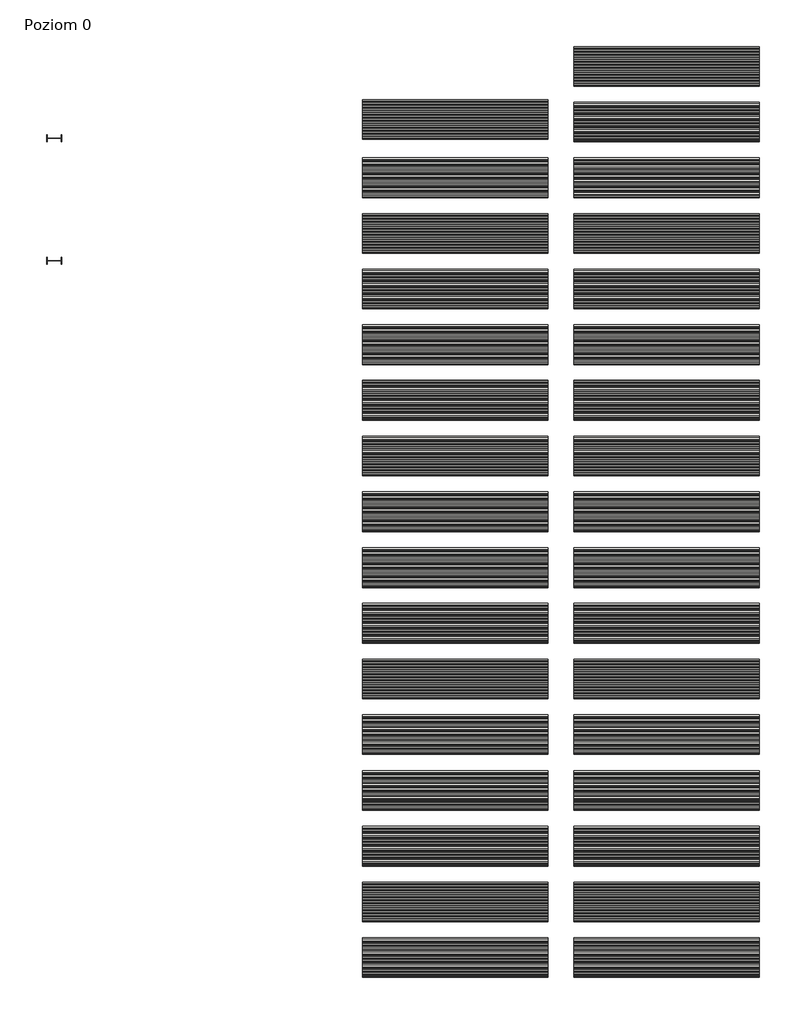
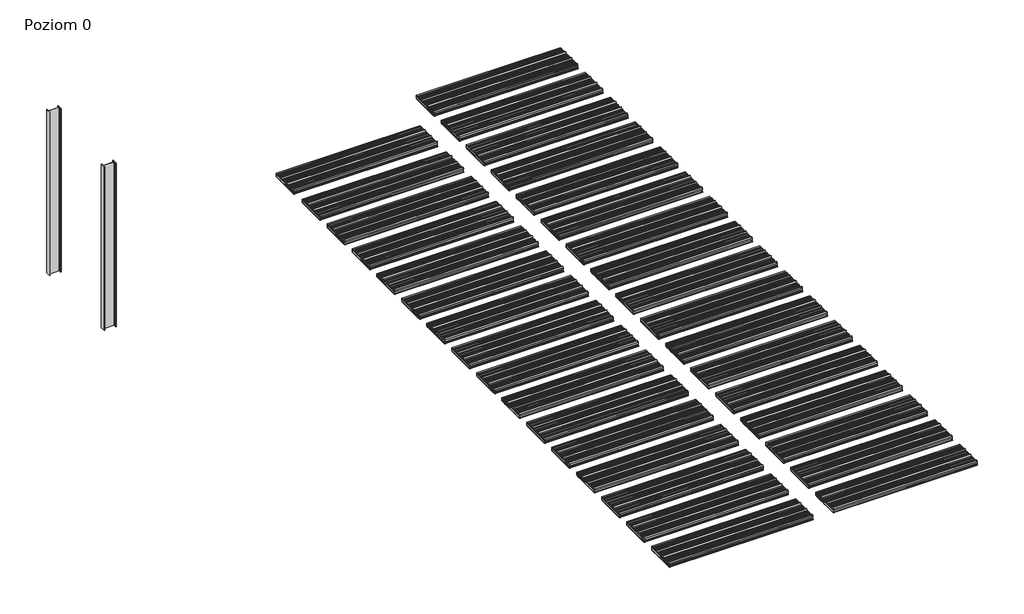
# One storey: 33 coverings, 2 columns.
"""IFC4 building model written with IfcOpenShell, lengths in millimetres."""

from ifc_helpers import new_model, si_unit, origin, place, context, project, spatial, transform, mapped, element, save
from components import standard1_standard_8d04f7a0, covering_b274b361

model = new_model("IFC4")

# Units and contexts
model_context = context("Model", 3, world=origin())
ifc_project = project(units=[si_unit("LENGTHUNIT", "METRE", prefix="MILLI")], contexts=[model_context])

# Site, building, storey
site = spatial("IfcSite", under=ifc_project)
building = spatial("IfcBuilding", under=site)
storey = spatial("IfcBuildingStorey", under=building, Name="Poziom 0", Elevation=0.0)

# Columns
placement = place(None, origin())
standard1_standard_shape = standard1_standard_8d04f7a0(model_context)
element("IfcColumn", 1, ObjectType="Standard1 : Standard", at=placement, inside=storey, context=model_context, shape_type="MappedRepresentation", body=[
    mapped(standard1_standard_shape, transform((-652.7962443, -4391.5492704, 0.0), x_axis=(0.0, 1.0, 0.0), y_axis=(-1.0, 0.0, 0.0), z_axis=(0.0, 0.0, 1.0))),
])
element("IfcColumn", 2, ObjectType="Standard1 : Standard", at=placement, inside=storey, context=model_context, shape_type="MappedRepresentation", body=[
    mapped(standard1_standard_shape, transform((-652.7962443, -7696.3492704, 0.0), x_axis=(0.0, 1.0, 0.0), y_axis=(-1.0, 0.0, 0.0), z_axis=(0.0, 0.0, 1.0))),
])

# Coverings
covering_shape = covering_b274b361(model_context)
element("IfcCovering", 3, ObjectType="Płyta warstwowa dachowa SPR CORE WOOL (pojedynczy arkusz) : -", at=placement, inside=storey, context=model_context, shape_type="MappedRepresentation", body=[
    mapped(covering_shape, transform((12661.4641213, -4434.1039718, 100.0), x_axis=(0.0, -1.0, 0.0), y_axis=(1.0, 0.0, 0.0), z_axis=(0.0, 0.0, 1.0))),
])
element("IfcCovering", 4, ObjectType="Płyta warstwowa dachowa SPR CORE WOOL (pojedynczy arkusz) : -", at=placement, inside=storey, context=model_context, shape_type="MappedRepresentation", body=[
    mapped(covering_shape, transform((12661.4641213, -6003.7304484, 100.0), x_axis=(0.0, -1.0, 0.0), y_axis=(1.0, 0.0, 0.0), z_axis=(0.0, 0.0, 1.0))),
])
element("IfcCovering", 5, ObjectType="Płyta warstwowa dachowa SPR CORE WOOL (pojedynczy arkusz) : -", at=placement, inside=storey, context=model_context, shape_type="MappedRepresentation", body=[
    mapped(covering_shape, transform((12661.4641213, -7505.5974484, 100.0), x_axis=(0.0, -1.0, 0.0), y_axis=(1.0, 0.0, 0.0), z_axis=(0.0, 0.0, 1.0))),
])
element("IfcCovering", 6, ObjectType="Płyta warstwowa dachowa SPR CORE WOOL (pojedynczy arkusz) : -", at=placement, inside=storey, context=model_context, shape_type="MappedRepresentation", body=[
    mapped(covering_shape, transform((12661.4641213, -9005.5974484, 100.0), x_axis=(0.0, -1.0, 0.0), y_axis=(1.0, 0.0, 0.0), z_axis=(0.0, 0.0, 1.0))),
])
element("IfcCovering", 7, ObjectType="Płyta warstwowa dachowa SPR CORE WOOL (pojedynczy arkusz) : -", at=placement, inside=storey, context=model_context, shape_type="MappedRepresentation", body=[
    mapped(covering_shape, transform((12661.4641213, -10505.5974484, 100.0), x_axis=(0.0, -1.0, 0.0), y_axis=(1.0, 0.0, 0.0), z_axis=(0.0, 0.0, 1.0))),
])
element("IfcCovering", 8, ObjectType="Płyta warstwowa dachowa SPR CORE WOOL (pojedynczy arkusz) : -", at=placement, inside=storey, context=model_context, shape_type="MappedRepresentation", body=[
    mapped(covering_shape, transform((12661.4641213, -12005.5974484, 100.0), x_axis=(0.0, -1.0, 0.0), y_axis=(1.0, 0.0, 0.0), z_axis=(0.0, 0.0, 1.0))),
])
element("IfcCovering", 9, ObjectType="Płyta warstwowa dachowa SPR CORE WOOL (pojedynczy arkusz) : -", at=placement, inside=storey, context=model_context, shape_type="MappedRepresentation", body=[
    mapped(covering_shape, transform((12661.4641213, -13505.5974484, 100.0), x_axis=(0.0, -1.0, 0.0), y_axis=(1.0, 0.0, 0.0), z_axis=(0.0, 0.0, 1.0))),
])
element("IfcCovering", 10, ObjectType="Płyta warstwowa dachowa SPR CORE WOOL (pojedynczy arkusz) : -", at=placement, inside=storey, context=model_context, shape_type="MappedRepresentation", body=[
    mapped(covering_shape, transform((12661.4641213, -15005.5974484, 100.0), x_axis=(0.0, -1.0, 0.0), y_axis=(1.0, 0.0, 0.0), z_axis=(0.0, 0.0, 1.0))),
])
element("IfcCovering", 11, ObjectType="Płyta warstwowa dachowa SPR CORE WOOL (pojedynczy arkusz) : -", at=placement, inside=storey, context=model_context, shape_type="MappedRepresentation", body=[
    mapped(covering_shape, transform((12661.4641213, -16515.082932, 100.0), x_axis=(0.0, -1.0, 0.0), y_axis=(1.0, 0.0, 0.0), z_axis=(0.0, 0.0, 1.0))),
])
element("IfcCovering", 12, ObjectType="Płyta warstwowa dachowa SPR CORE WOOL (pojedynczy arkusz) : -", at=placement, inside=storey, context=model_context, shape_type="MappedRepresentation", body=[
    mapped(covering_shape, transform((12661.4641213, -18015.082932, 100.0), x_axis=(0.0, -1.0, 0.0), y_axis=(1.0, 0.0, 0.0), z_axis=(0.0, 0.0, 1.0))),
])
element("IfcCovering", 13, ObjectType="Płyta warstwowa dachowa SPR CORE WOOL (pojedynczy arkusz) : -", at=placement, inside=storey, context=model_context, shape_type="MappedRepresentation", body=[
    mapped(covering_shape, transform((12661.4641213, -19515.082932, 100.0), x_axis=(0.0, -1.0, 0.0), y_axis=(1.0, 0.0, 0.0), z_axis=(0.0, 0.0, 1.0))),
])
element("IfcCovering", 14, ObjectType="Płyta warstwowa dachowa SPR CORE WOOL (pojedynczy arkusz) : -", at=placement, inside=storey, context=model_context, shape_type="MappedRepresentation", body=[
    mapped(covering_shape, transform((12661.4641213, -21015.082932, 100.0), x_axis=(0.0, -1.0, 0.0), y_axis=(1.0, 0.0, 0.0), z_axis=(0.0, 0.0, 1.0))),
])
element("IfcCovering", 15, ObjectType="Płyta warstwowa dachowa SPR CORE WOOL (pojedynczy arkusz) : -", at=placement, inside=storey, context=model_context, shape_type="MappedRepresentation", body=[
    mapped(covering_shape, transform((12661.4641213, -22524.5684156, 100.0), x_axis=(0.0, -1.0, 0.0), y_axis=(1.0, 0.0, 0.0), z_axis=(0.0, 0.0, 1.0))),
])
element("IfcCovering", 16, ObjectType="Płyta warstwowa dachowa SPR CORE WOOL (pojedynczy arkusz) : -", at=placement, inside=storey, context=model_context, shape_type="MappedRepresentation", body=[
    mapped(covering_shape, transform((12661.4641213, -24024.5684156, 100.0), x_axis=(0.0, -1.0, 0.0), y_axis=(1.0, 0.0, 0.0), z_axis=(0.0, 0.0, 1.0))),
])
element("IfcCovering", 17, ObjectType="Płyta warstwowa dachowa SPR CORE WOOL (pojedynczy arkusz) : -", at=placement, inside=storey, context=model_context, shape_type="MappedRepresentation", body=[
    mapped(covering_shape, transform((12661.4641213, -25524.5684156, 100.0), x_axis=(0.0, -1.0, 0.0), y_axis=(1.0, 0.0, 0.0), z_axis=(0.0, 0.0, 1.0))),
])
element("IfcCovering", 18, ObjectType="Płyta warstwowa dachowa SPR CORE WOOL (pojedynczy arkusz) : -", at=placement, inside=storey, context=model_context, shape_type="MappedRepresentation", body=[
    mapped(covering_shape, transform((12661.4641213, -27024.5684156, 100.0), x_axis=(0.0, -1.0, 0.0), y_axis=(1.0, 0.0, 0.0), z_axis=(0.0, 0.0, 1.0))),
])
element("IfcCovering", 19, ObjectType="Płyta warstwowa dachowa SPR CORE WOOL (pojedynczy arkusz) : -", at=placement, inside=storey, context=model_context, shape_type="MappedRepresentation", body=[
    mapped(covering_shape, transform((18361.4641213, -4505.5974484, 100.0), x_axis=(0.0, -1.0, 0.0), y_axis=(1.0, 0.0, 0.0), z_axis=(0.0, 0.0, 1.0))),
])
element("IfcCovering", 20, ObjectType="Płyta warstwowa dachowa SPR CORE WOOL (pojedynczy arkusz) : -", at=placement, inside=storey, context=model_context, shape_type="MappedRepresentation", body=[
    mapped(covering_shape, transform((18361.4641213, -6005.5974484, 100.0), x_axis=(0.0, -1.0, 0.0), y_axis=(1.0, 0.0, 0.0), z_axis=(0.0, 0.0, 1.0))),
])
element("IfcCovering", 21, ObjectType="Płyta warstwowa dachowa SPR CORE WOOL (pojedynczy arkusz) : -", at=placement, inside=storey, context=model_context, shape_type="MappedRepresentation", body=[
    mapped(covering_shape, transform((18361.4641213, -7505.5974484, 100.0), x_axis=(0.0, -1.0, 0.0), y_axis=(1.0, 0.0, 0.0), z_axis=(0.0, 0.0, 1.0))),
])
element("IfcCovering", 22, ObjectType="Płyta warstwowa dachowa SPR CORE WOOL (pojedynczy arkusz) : -", at=placement, inside=storey, context=model_context, shape_type="MappedRepresentation", body=[
    mapped(covering_shape, transform((18361.4641213, -9005.5974484, 100.0), x_axis=(0.0, -1.0, 0.0), y_axis=(1.0, 0.0, 0.0), z_axis=(0.0, 0.0, 1.0))),
])
element("IfcCovering", 23, ObjectType="Płyta warstwowa dachowa SPR CORE WOOL (pojedynczy arkusz) : -", at=placement, inside=storey, context=model_context, shape_type="MappedRepresentation", body=[
    mapped(covering_shape, transform((18361.4641213, -10505.5974484, 100.0), x_axis=(0.0, -1.0, 0.0), y_axis=(1.0, 0.0, 0.0), z_axis=(0.0, 0.0, 1.0))),
])
element("IfcCovering", 24, ObjectType="Płyta warstwowa dachowa SPR CORE WOOL (pojedynczy arkusz) : -", at=placement, inside=storey, context=model_context, shape_type="MappedRepresentation", body=[
    mapped(covering_shape, transform((18361.4641213, -12005.5974484, 100.0), x_axis=(0.0, -1.0, 0.0), y_axis=(1.0, 0.0, 0.0), z_axis=(0.0, 0.0, 1.0))),
])
element("IfcCovering", 25, ObjectType="Płyta warstwowa dachowa SPR CORE WOOL (pojedynczy arkusz) : -", at=placement, inside=storey, context=model_context, shape_type="MappedRepresentation", body=[
    mapped(covering_shape, transform((18361.4641213, -13505.5974484, 100.0), x_axis=(0.0, -1.0, 0.0), y_axis=(1.0, 0.0, 0.0), z_axis=(0.0, 0.0, 1.0))),
])
element("IfcCovering", 26, ObjectType="Płyta warstwowa dachowa SPR CORE WOOL (pojedynczy arkusz) : -", at=placement, inside=storey, context=model_context, shape_type="MappedRepresentation", body=[
    mapped(covering_shape, transform((18361.4641213, -15005.5974484, 100.0), x_axis=(0.0, -1.0, 0.0), y_axis=(1.0, 0.0, 0.0), z_axis=(0.0, 0.0, 1.0))),
])
element("IfcCovering", 27, ObjectType="Płyta warstwowa dachowa SPR CORE WOOL (pojedynczy arkusz) : -", at=placement, inside=storey, context=model_context, shape_type="MappedRepresentation", body=[
    mapped(covering_shape, transform((18361.4641213, -16515.082932, 100.0), x_axis=(0.0, -1.0, 0.0), y_axis=(1.0, 0.0, 0.0), z_axis=(0.0, 0.0, 1.0))),
])
element("IfcCovering", 28, ObjectType="Płyta warstwowa dachowa SPR CORE WOOL (pojedynczy arkusz) : -", at=placement, inside=storey, context=model_context, shape_type="MappedRepresentation", body=[
    mapped(covering_shape, transform((18361.4641213, -18015.082932, 100.0), x_axis=(0.0, -1.0, 0.0), y_axis=(1.0, 0.0, 0.0), z_axis=(0.0, 0.0, 1.0))),
])
element("IfcCovering", 29, ObjectType="Płyta warstwowa dachowa SPR CORE WOOL (pojedynczy arkusz) : -", at=placement, inside=storey, context=model_context, shape_type="MappedRepresentation", body=[
    mapped(covering_shape, transform((18361.4641213, -19515.082932, 100.0), x_axis=(0.0, -1.0, 0.0), y_axis=(1.0, 0.0, 0.0), z_axis=(0.0, 0.0, 1.0))),
])
element("IfcCovering", 30, ObjectType="Płyta warstwowa dachowa SPR CORE WOOL (pojedynczy arkusz) : -", at=placement, inside=storey, context=model_context, shape_type="MappedRepresentation", body=[
    mapped(covering_shape, transform((18361.4641213, -21015.082932, 100.0), x_axis=(0.0, -1.0, 0.0), y_axis=(1.0, 0.0, 0.0), z_axis=(0.0, 0.0, 1.0))),
])
element("IfcCovering", 31, ObjectType="Płyta warstwowa dachowa SPR CORE WOOL (pojedynczy arkusz) : -", at=placement, inside=storey, context=model_context, shape_type="MappedRepresentation", body=[
    mapped(covering_shape, transform((18361.4641213, -22524.5684156, 100.0), x_axis=(0.0, -1.0, 0.0), y_axis=(1.0, 0.0, 0.0), z_axis=(0.0, 0.0, 1.0))),
])
element("IfcCovering", 32, ObjectType="Płyta warstwowa dachowa SPR CORE WOOL (pojedynczy arkusz) : -", at=placement, inside=storey, context=model_context, shape_type="MappedRepresentation", body=[
    mapped(covering_shape, transform((18361.4641213, -24024.5684156, 100.0), x_axis=(0.0, -1.0, 0.0), y_axis=(1.0, 0.0, 0.0), z_axis=(0.0, 0.0, 1.0))),
])
element("IfcCovering", 33, ObjectType="Płyta warstwowa dachowa SPR CORE WOOL (pojedynczy arkusz) : -", at=placement, inside=storey, context=model_context, shape_type="MappedRepresentation", body=[
    mapped(covering_shape, transform((18361.4641213, -25524.5684156, 100.0), x_axis=(0.0, -1.0, 0.0), y_axis=(1.0, 0.0, 0.0), z_axis=(0.0, 0.0, 1.0))),
])
element("IfcCovering", 34, ObjectType="Płyta warstwowa dachowa SPR CORE WOOL (pojedynczy arkusz) : -", at=placement, inside=storey, context=model_context, shape_type="MappedRepresentation", body=[
    mapped(covering_shape, transform((18361.4641213, -27024.5684156, 100.0), x_axis=(0.0, -1.0, 0.0), y_axis=(1.0, 0.0, 0.0), z_axis=(0.0, 0.0, 1.0))),
])
element("IfcCovering", 35, ObjectType="Płyta warstwowa dachowa SPR CORE WOOL (pojedynczy arkusz) : -", at=placement, inside=storey, context=model_context, shape_type="MappedRepresentation", body=[
    mapped(covering_shape, transform((18361.4641213, -3005.5974484, 100.0), x_axis=(0.0, -1.0, 0.0), y_axis=(1.0, 0.0, 0.0), z_axis=(0.0, 0.0, 1.0))),
])

save(model, "model.ifc")
